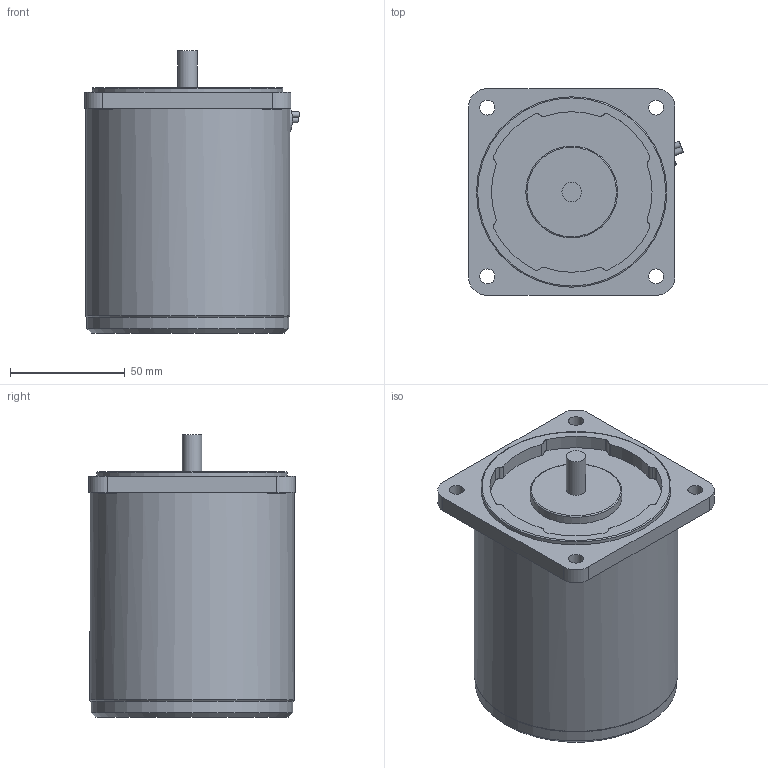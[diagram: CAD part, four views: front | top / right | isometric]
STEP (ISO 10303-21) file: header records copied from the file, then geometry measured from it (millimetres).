
FILE_DESCRIPTION((''),'2;1');
FILE_NAME('E:\2공장-도면\3D\표준형 3D(민규)\step file\K9IG40Nㅁ.stp','2014-11-12T08:58:23',('AHN'),(''),'Autodesk Inventor 2012','Autodesk Inventor 2012','');
FILE_SCHEMA(('CONFIG_CONTROL_DESIGN'));
Length unit declared in the file: millimetre
Products named in the file (1): K9IG40Nㅁ
Bounding box: 93.75 x 90 x 123 mm (x, y, z)
Volume: 655957.6 mm3; surface area: 48920.1 mm2
Topology: 1 solids, 1 shells, 72 faces, 169 edges, 106 vertices
Faces by surface type: cylinder 48, plane 20, torus 3, cone 1
Full cylindrical faces by diameter (mm): 6.5 x4, 8 x4, 8.47 x1, 40 x1, 83 x1, 88 x1, 89 x1
Entity records: 2046 total; most frequent: DIRECTION 391, CARTESIAN_POINT 353, ORIENTED_EDGE 296, AXIS2_PLACEMENT_3D 171, EDGE_CURVE 148, EDGE_LOOP 107, VERTEX_POINT 102, CIRCLE 98
